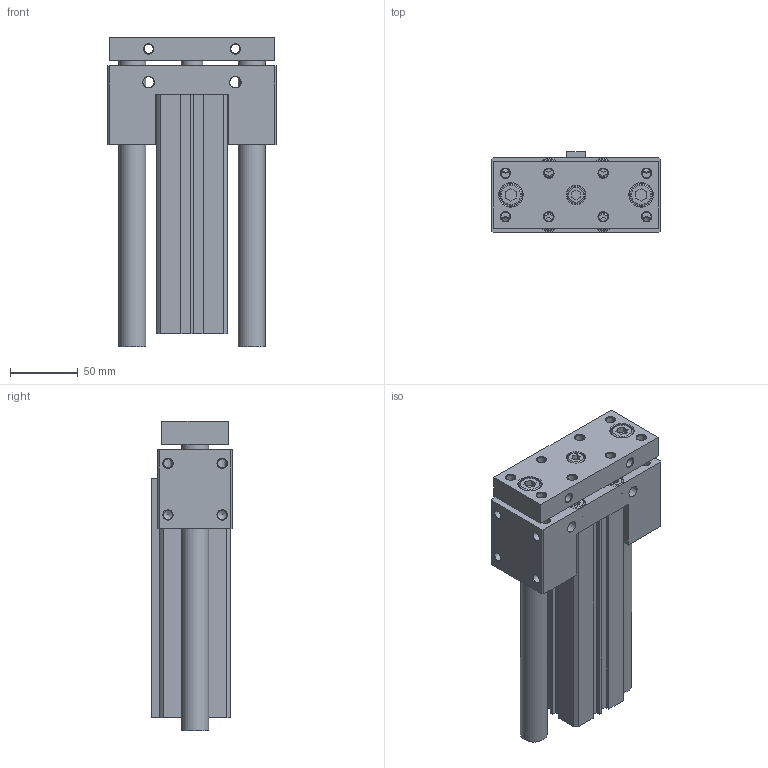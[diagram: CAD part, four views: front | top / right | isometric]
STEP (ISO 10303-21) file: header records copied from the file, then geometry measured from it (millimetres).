
FILE_DESCRIPTION((''),'2;1');
FILE_NAME('I:\3D電子目錄\氣缸\JCB\JCB\JCB40\JCB40x150.stp','2007-08-23T20:11:45',('Administrator'),(''),'Autodesk Inventor 11','Autodesk Inventor 11','');
FILE_SCHEMA(('AUTOMOTIVE_DESIGN { 1 0 10303 214 1 1 1 1 }'));
Length unit declared in the file: millimetre
Products named in the file (1): JCB40
Bounding box: 124 x 59.5 x 228 mm (x, y, z)
Volume: 871190.1 mm3; surface area: 174009.9 mm2
Topology: 3 solids, 3 shells, 303 faces, 731 edges, 473 vertices
Faces by surface type: plane 163, cylinder 52, cone 47, bspline 33, torus 8
Full cylindrical faces by diameter (mm): 2.2 x2, 6.647 x4, 6.8 x4, 10 x8, 13 x5, 14 x5, 16 x3, 17 x1, 17.5 x2, 20 x2, 23 x2, 28 x1, 29 x1, 42 x4, 44.5 x2
Entity records: 8528 total; most frequent: CARTESIAN_POINT 2090, DIRECTION 1302, ORIENTED_EDGE 1114, EDGE_CURVE 557, EDGE_LOOP 522, AXIS2_PLACEMENT_3D 480, VERTEX_POINT 435, VECTOR 342
